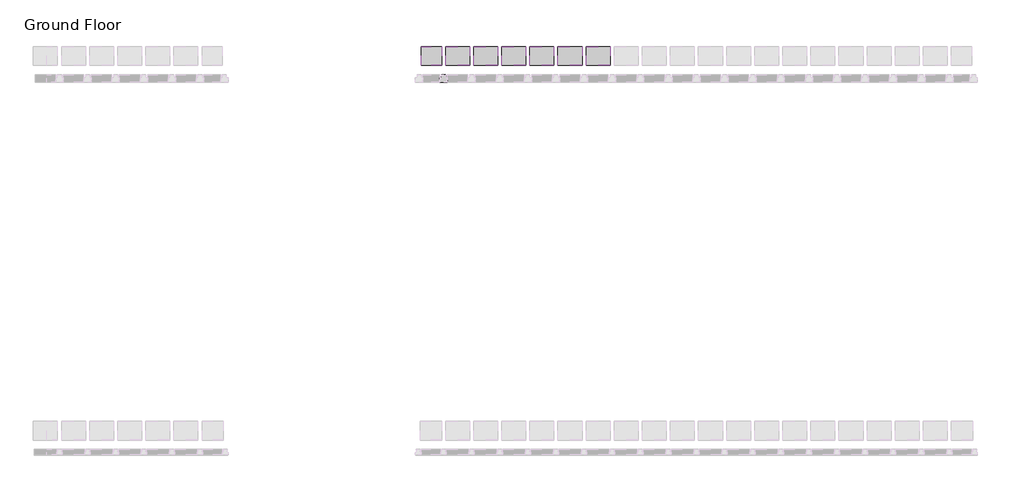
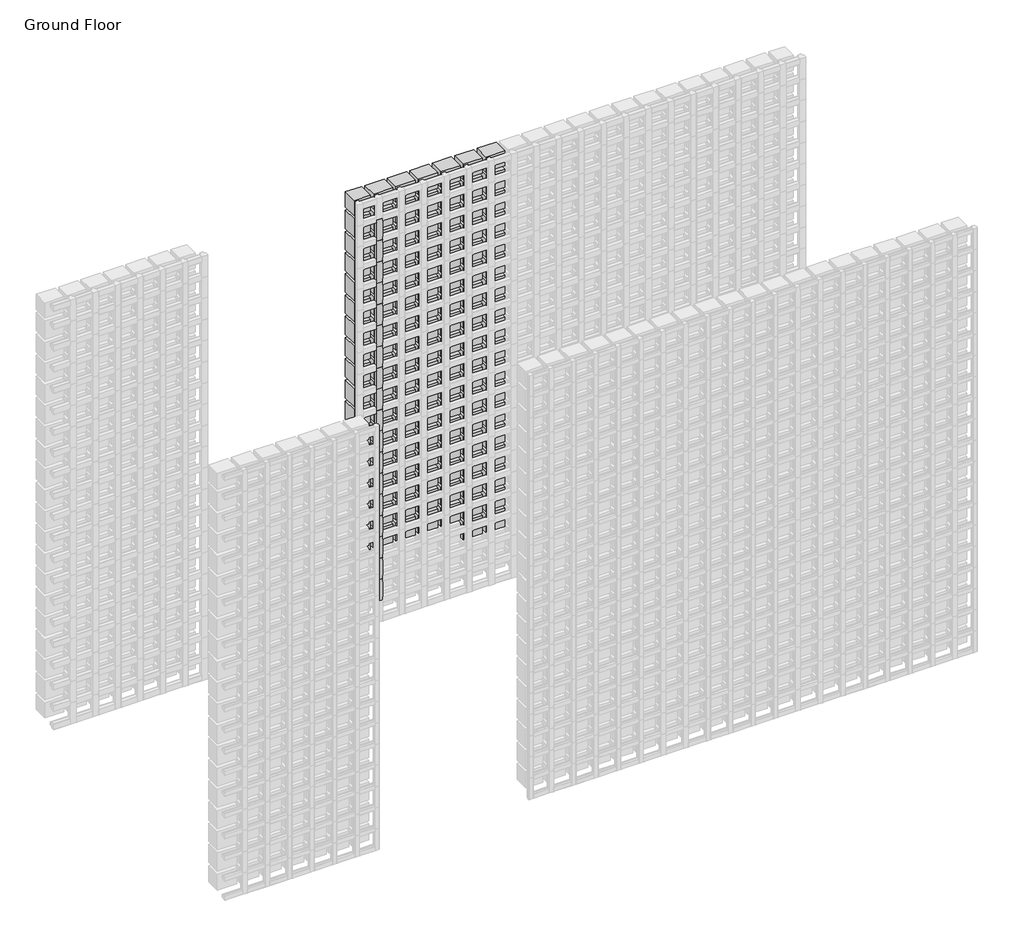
# One storey, part 118 of 350: 121 plates, 18 members.
"""IFC4 building model written with IfcOpenShell, lengths in millimetres."""

from ifc_helpers import new_model, si_unit, origin, place, context, project, spatial, transform, mapped, element, save
from components import rectangular_mullion_84e0df2e, empty_system_panel_empty_5a3607ba, empty_system_panel_empty_abd50de3, empty_system_panel_empty_5e80e148, empty_system_panel_empty_f8a2f29b

model = new_model("IFC4")

# Units and contexts
model_context = context("Model", 3, world=origin())
ifc_project = project(units=[si_unit("LENGTHUNIT", "METRE", prefix="MILLI")], contexts=[model_context])

# Site, building, storey
site = spatial("IfcSite", under=ifc_project)
building = spatial("IfcBuilding", under=site)
storey = spatial("IfcBuildingStorey", under=building, Name="Ground Floor", Elevation=0.0)

# Members
placement = place(None, origin())
rectangular_mullion_shape = rectangular_mullion_84e0df2e(model_context)
element("IfcMember", 1, ObjectType="Rectangular Mullion : Batten_Timber_Modinex_Austratus_Grid_Fin_40x40_Blackbutt", at=placement, inside=storey, context=model_context, shape_type="MappedRepresentation", body=[
    mapped(rectangular_mullion_shape, transform((6066.4361642, 44968.2978302, 150.0), x_axis=(1.0, 0.0, 0.0), y_axis=(0.0, -1.0, 0.0), z_axis=(0.0, 0.0, -1.0))),
])
element("IfcMember", 2, ObjectType="Rectangular Mullion : Batten_Timber_Modinex_Austratus_Grid_Fin_40x40_Blackbutt", at=placement, inside=storey, context=model_context, shape_type="MappedRepresentation", body=[
    mapped(rectangular_mullion_shape, transform((6066.4361642, 44968.2978302, 300.0), x_axis=(1.0, 0.0, 0.0), y_axis=(0.0, -1.0, 0.0), z_axis=(0.0, 0.0, -1.0))),
])
element("IfcMember", 3, ObjectType="Rectangular Mullion : Batten_Timber_Modinex_Austratus_Grid_Fin_40x40_Blackbutt", at=placement, inside=storey, context=model_context, shape_type="MappedRepresentation", body=[
    mapped(rectangular_mullion_shape, transform((6066.4361642, 44968.2978302, 450.0), x_axis=(1.0, 0.0, 0.0), y_axis=(0.0, -1.0, 0.0), z_axis=(0.0, 0.0, -1.0))),
])
element("IfcMember", 4, ObjectType="Rectangular Mullion : Batten_Timber_Modinex_Austratus_Grid_Fin_40x40_Blackbutt", at=placement, inside=storey, context=model_context, shape_type="MappedRepresentation", body=[
    mapped(rectangular_mullion_shape, transform((6066.4361642, 44968.2978302, 600.0), x_axis=(1.0, 0.0, 0.0), y_axis=(0.0, -1.0, 0.0), z_axis=(0.0, 0.0, -1.0))),
])
element("IfcMember", 5, ObjectType="Rectangular Mullion : Batten_Timber_Modinex_Austratus_Grid_Fin_40x40_Blackbutt", at=placement, inside=storey, context=model_context, shape_type="MappedRepresentation", body=[
    mapped(rectangular_mullion_shape, transform((6066.4361642, 44968.2978302, 750.0), x_axis=(1.0, 0.0, 0.0), y_axis=(0.0, -1.0, 0.0), z_axis=(0.0, 0.0, -1.0))),
])
element("IfcMember", 6, ObjectType="Rectangular Mullion : Batten_Timber_Modinex_Austratus_Grid_Fin_40x40_Blackbutt", at=placement, inside=storey, context=model_context, shape_type="MappedRepresentation", body=[
    mapped(rectangular_mullion_shape, transform((6066.4361642, 44968.2978302, 900.0), x_axis=(1.0, 0.0, 0.0), y_axis=(0.0, -1.0, 0.0), z_axis=(0.0, 0.0, -1.0))),
])
element("IfcMember", 7, ObjectType="Rectangular Mullion : Batten_Timber_Modinex_Austratus_Grid_Fin_40x40_Blackbutt", at=placement, inside=storey, context=model_context, shape_type="MappedRepresentation", body=[
    mapped(rectangular_mullion_shape, transform((6066.4361642, 44968.2978302, 1050.0), x_axis=(1.0, 0.0, 0.0), y_axis=(0.0, -1.0, 0.0), z_axis=(0.0, 0.0, -1.0))),
])
element("IfcMember", 8, ObjectType="Rectangular Mullion : Batten_Timber_Modinex_Austratus_Grid_Fin_40x40_Blackbutt", at=placement, inside=storey, context=model_context, shape_type="MappedRepresentation", body=[
    mapped(rectangular_mullion_shape, transform((6066.4361642, 44968.2978302, 1200.0), x_axis=(1.0, 0.0, 0.0), y_axis=(0.0, -1.0, 0.0), z_axis=(0.0, 0.0, -1.0))),
])
element("IfcMember", 9, ObjectType="Rectangular Mullion : Batten_Timber_Modinex_Austratus_Grid_Fin_40x40_Blackbutt", at=placement, inside=storey, context=model_context, shape_type="MappedRepresentation", body=[
    mapped(rectangular_mullion_shape, transform((6066.4361642, 44968.2978302, 1350.0), x_axis=(1.0, 0.0, 0.0), y_axis=(0.0, -1.0, 0.0), z_axis=(0.0, 0.0, -1.0))),
])
element("IfcMember", 10, ObjectType="Rectangular Mullion : Batten_Timber_Modinex_Austratus_Grid_Fin_40x40_Blackbutt", at=placement, inside=storey, context=model_context, shape_type="MappedRepresentation", body=[
    mapped(rectangular_mullion_shape, transform((6066.4361642, 44968.2978302, 1500.0), x_axis=(1.0, 0.0, 0.0), y_axis=(0.0, -1.0, 0.0), z_axis=(0.0, 0.0, -1.0))),
])
element("IfcMember", 11, ObjectType="Rectangular Mullion : Batten_Timber_Modinex_Austratus_Grid_Fin_40x40_Blackbutt", at=placement, inside=storey, context=model_context, shape_type="MappedRepresentation", body=[
    mapped(rectangular_mullion_shape, transform((6066.4361642, 44968.2978302, 1650.0), x_axis=(1.0, 0.0, 0.0), y_axis=(0.0, -1.0, 0.0), z_axis=(0.0, 0.0, -1.0))),
])
element("IfcMember", 12, ObjectType="Rectangular Mullion : Batten_Timber_Modinex_Austratus_Grid_Fin_40x40_Blackbutt", at=placement, inside=storey, context=model_context, shape_type="MappedRepresentation", body=[
    mapped(rectangular_mullion_shape, transform((6066.4361642, 44968.2978302, 1800.0), x_axis=(1.0, 0.0, 0.0), y_axis=(0.0, -1.0, 0.0), z_axis=(0.0, 0.0, -1.0))),
])
element("IfcMember", 13, ObjectType="Rectangular Mullion : Batten_Timber_Modinex_Austratus_Grid_Fin_40x40_Blackbutt", at=placement, inside=storey, context=model_context, shape_type="MappedRepresentation", body=[
    mapped(rectangular_mullion_shape, transform((6066.4361642, 44968.2978302, 1950.0), x_axis=(1.0, 0.0, 0.0), y_axis=(0.0, -1.0, 0.0), z_axis=(0.0, 0.0, -1.0))),
])
element("IfcMember", 14, ObjectType="Rectangular Mullion : Batten_Timber_Modinex_Austratus_Grid_Fin_40x40_Blackbutt", at=placement, inside=storey, context=model_context, shape_type="MappedRepresentation", body=[
    mapped(rectangular_mullion_shape, transform((6066.4361642, 44968.2978302, 2100.0), x_axis=(1.0, 0.0, 0.0), y_axis=(0.0, -1.0, 0.0), z_axis=(0.0, 0.0, -1.0))),
])
element("IfcMember", 15, ObjectType="Rectangular Mullion : Batten_Timber_Modinex_Austratus_Grid_Fin_40x40_Blackbutt", at=placement, inside=storey, context=model_context, shape_type="MappedRepresentation", body=[
    mapped(rectangular_mullion_shape, transform((6066.4361642, 44968.2978302, 2250.0), x_axis=(1.0, 0.0, 0.0), y_axis=(0.0, -1.0, 0.0), z_axis=(0.0, 0.0, -1.0))),
])
element("IfcMember", 16, ObjectType="Rectangular Mullion : Batten_Timber_Modinex_Austratus_Grid_Fin_40x40_Blackbutt", at=placement, inside=storey, context=model_context, shape_type="MappedRepresentation", body=[
    mapped(rectangular_mullion_shape, transform((6066.4361642, 44968.2978302, 2400.0), x_axis=(1.0, 0.0, 0.0), y_axis=(0.0, -1.0, 0.0), z_axis=(0.0, 0.0, -1.0))),
])
element("IfcMember", 17, ObjectType="Rectangular Mullion : Batten_Timber_Modinex_Austratus_Grid_Fin_40x40_Blackbutt", at=placement, inside=storey, context=model_context, shape_type="MappedRepresentation", body=[
    mapped(rectangular_mullion_shape, transform((6066.4361642, 44968.2978302, 2550.0), x_axis=(1.0, 0.0, 0.0), y_axis=(0.0, -1.0, 0.0), z_axis=(0.0, 0.0, -1.0))),
])
element("IfcMember", 18, ObjectType="Rectangular Mullion : Batten_Timber_Modinex_Austratus_Grid_Fin_40x40_Blackbutt", at=placement, inside=storey, context=model_context, shape_type="MappedRepresentation", body=[
    mapped(rectangular_mullion_shape, transform((6066.4361642, 44968.2978302, 2700.0), x_axis=(1.0, 0.0, 0.0), y_axis=(0.0, -1.0, 0.0), z_axis=(0.0, 0.0, -1.0))),
])

# Plates
empty_system_panel_empty_shape = empty_system_panel_empty_5a3607ba(model_context)
element("IfcPlate", 19, ObjectType="Empty System Panel : Empty", at=placement, inside=storey, context=model_context, shape_type="MappedRepresentation", body=[
    mapped(empty_system_panel_empty_shape, transform((6741.4361642, 44968.2978302, 310.812195), x_axis=(1.0, 0.0, 0.0), y_axis=(0.0, 1.0, 0.0), z_axis=(0.0, 0.0, 1.0))),
])
element("IfcPlate", 20, ObjectType="Empty System Panel : Empty", at=placement, inside=storey, context=model_context, shape_type="MappedRepresentation", body=[
    mapped(empty_system_panel_empty_shape, transform((6891.4361642, 44968.2978302, 310.812195), x_axis=(1.0, 0.0, 0.0), y_axis=(0.0, 1.0, 0.0), z_axis=(0.0, 0.0, 1.0))),
])
element("IfcPlate", 21, ObjectType="Empty System Panel : Empty", at=placement, inside=storey, context=model_context, shape_type="MappedRepresentation", body=[
    mapped(empty_system_panel_empty_shape, transform((6141.4361642, 44968.2978302, 460.812195), x_axis=(1.0, 0.0, 0.0), y_axis=(0.0, 1.0, 0.0), z_axis=(0.0, 0.0, 1.0))),
])
element("IfcPlate", 22, ObjectType="Empty System Panel : Empty", at=placement, inside=storey, context=model_context, shape_type="MappedRepresentation", body=[
    mapped(empty_system_panel_empty_shape, transform((6291.4361642, 44968.2978302, 460.812195), x_axis=(1.0, 0.0, 0.0), y_axis=(0.0, 1.0, 0.0), z_axis=(0.0, 0.0, 1.0))),
])
element("IfcPlate", 23, ObjectType="Empty System Panel : Empty", at=placement, inside=storey, context=model_context, shape_type="MappedRepresentation", body=[
    mapped(empty_system_panel_empty_shape, transform((6441.4361642, 44968.2978302, 460.812195), x_axis=(1.0, 0.0, 0.0), y_axis=(0.0, 1.0, 0.0), z_axis=(0.0, 0.0, 1.0))),
])
element("IfcPlate", 24, ObjectType="Empty System Panel : Empty", at=placement, inside=storey, context=model_context, shape_type="MappedRepresentation", body=[
    mapped(empty_system_panel_empty_shape, transform((6591.4361642, 44968.2978302, 460.812195), x_axis=(1.0, 0.0, 0.0), y_axis=(0.0, 1.0, 0.0), z_axis=(0.0, 0.0, 1.0))),
])
element("IfcPlate", 25, ObjectType="Empty System Panel : Empty", at=placement, inside=storey, context=model_context, shape_type="MappedRepresentation", body=[
    mapped(empty_system_panel_empty_shape, transform((6741.4361642, 44968.2978302, 460.812195), x_axis=(1.0, 0.0, 0.0), y_axis=(0.0, 1.0, 0.0), z_axis=(0.0, 0.0, 1.0))),
])
element("IfcPlate", 26, ObjectType="Empty System Panel : Empty", at=placement, inside=storey, context=model_context, shape_type="MappedRepresentation", body=[
    mapped(empty_system_panel_empty_shape, transform((6891.4361642, 44968.2978302, 460.812195), x_axis=(1.0, 0.0, 0.0), y_axis=(0.0, 1.0, 0.0), z_axis=(0.0, 0.0, 1.0))),
])
element("IfcPlate", 27, ObjectType="Empty System Panel : Empty", at=placement, inside=storey, context=model_context, shape_type="MappedRepresentation", body=[
    mapped(empty_system_panel_empty_shape, transform((6141.4361642, 44968.2978302, 610.812195), x_axis=(1.0, 0.0, 0.0), y_axis=(0.0, 1.0, 0.0), z_axis=(0.0, 0.0, 1.0))),
])
element("IfcPlate", 28, ObjectType="Empty System Panel : Empty", at=placement, inside=storey, context=model_context, shape_type="MappedRepresentation", body=[
    mapped(empty_system_panel_empty_shape, transform((6291.4361642, 44968.2978302, 610.812195), x_axis=(1.0, 0.0, 0.0), y_axis=(0.0, 1.0, 0.0), z_axis=(0.0, 0.0, 1.0))),
])
element("IfcPlate", 29, ObjectType="Empty System Panel : Empty", at=placement, inside=storey, context=model_context, shape_type="MappedRepresentation", body=[
    mapped(empty_system_panel_empty_shape, transform((6441.4361642, 44968.2978302, 610.812195), x_axis=(1.0, 0.0, 0.0), y_axis=(0.0, 1.0, 0.0), z_axis=(0.0, 0.0, 1.0))),
])
element("IfcPlate", 30, ObjectType="Empty System Panel : Empty", at=placement, inside=storey, context=model_context, shape_type="MappedRepresentation", body=[
    mapped(empty_system_panel_empty_shape, transform((6591.4361642, 44968.2978302, 610.812195), x_axis=(1.0, 0.0, 0.0), y_axis=(0.0, 1.0, 0.0), z_axis=(0.0, 0.0, 1.0))),
])
element("IfcPlate", 31, ObjectType="Empty System Panel : Empty", at=placement, inside=storey, context=model_context, shape_type="MappedRepresentation", body=[
    mapped(empty_system_panel_empty_shape, transform((6741.4361642, 44968.2978302, 610.812195), x_axis=(1.0, 0.0, 0.0), y_axis=(0.0, 1.0, 0.0), z_axis=(0.0, 0.0, 1.0))),
])
element("IfcPlate", 32, ObjectType="Empty System Panel : Empty", at=placement, inside=storey, context=model_context, shape_type="MappedRepresentation", body=[
    mapped(empty_system_panel_empty_shape, transform((6891.4361642, 44968.2978302, 610.812195), x_axis=(1.0, 0.0, 0.0), y_axis=(0.0, 1.0, 0.0), z_axis=(0.0, 0.0, 1.0))),
])
element("IfcPlate", 33, ObjectType="Empty System Panel : Empty", at=placement, inside=storey, context=model_context, shape_type="MappedRepresentation", body=[
    mapped(empty_system_panel_empty_shape, transform((6141.4361642, 44968.2978302, 760.812195), x_axis=(1.0, 0.0, 0.0), y_axis=(0.0, 1.0, 0.0), z_axis=(0.0, 0.0, 1.0))),
])
element("IfcPlate", 34, ObjectType="Empty System Panel : Empty", at=placement, inside=storey, context=model_context, shape_type="MappedRepresentation", body=[
    mapped(empty_system_panel_empty_shape, transform((6291.4361642, 44968.2978302, 760.812195), x_axis=(1.0, 0.0, 0.0), y_axis=(0.0, 1.0, 0.0), z_axis=(0.0, 0.0, 1.0))),
])
element("IfcPlate", 35, ObjectType="Empty System Panel : Empty", at=placement, inside=storey, context=model_context, shape_type="MappedRepresentation", body=[
    mapped(empty_system_panel_empty_shape, transform((6441.4361642, 44968.2978302, 760.812195), x_axis=(1.0, 0.0, 0.0), y_axis=(0.0, 1.0, 0.0), z_axis=(0.0, 0.0, 1.0))),
])
element("IfcPlate", 36, ObjectType="Empty System Panel : Empty", at=placement, inside=storey, context=model_context, shape_type="MappedRepresentation", body=[
    mapped(empty_system_panel_empty_shape, transform((6591.4361642, 44968.2978302, 760.812195), x_axis=(1.0, 0.0, 0.0), y_axis=(0.0, 1.0, 0.0), z_axis=(0.0, 0.0, 1.0))),
])
element("IfcPlate", 37, ObjectType="Empty System Panel : Empty", at=placement, inside=storey, context=model_context, shape_type="MappedRepresentation", body=[
    mapped(empty_system_panel_empty_shape, transform((6741.4361642, 44968.2978302, 760.812195), x_axis=(1.0, 0.0, 0.0), y_axis=(0.0, 1.0, 0.0), z_axis=(0.0, 0.0, 1.0))),
])
element("IfcPlate", 38, ObjectType="Empty System Panel : Empty", at=placement, inside=storey, context=model_context, shape_type="MappedRepresentation", body=[
    mapped(empty_system_panel_empty_shape, transform((6891.4361642, 44968.2978302, 760.812195), x_axis=(1.0, 0.0, 0.0), y_axis=(0.0, 1.0, 0.0), z_axis=(0.0, 0.0, 1.0))),
])
element("IfcPlate", 39, ObjectType="Empty System Panel : Empty", at=placement, inside=storey, context=model_context, shape_type="MappedRepresentation", body=[
    mapped(empty_system_panel_empty_shape, transform((6141.4361642, 44968.2978302, 910.812195), x_axis=(1.0, 0.0, 0.0), y_axis=(0.0, 1.0, 0.0), z_axis=(0.0, 0.0, 1.0))),
])
element("IfcPlate", 40, ObjectType="Empty System Panel : Empty", at=placement, inside=storey, context=model_context, shape_type="MappedRepresentation", body=[
    mapped(empty_system_panel_empty_shape, transform((6291.4361642, 44968.2978302, 910.812195), x_axis=(1.0, 0.0, 0.0), y_axis=(0.0, 1.0, 0.0), z_axis=(0.0, 0.0, 1.0))),
])
element("IfcPlate", 41, ObjectType="Empty System Panel : Empty", at=placement, inside=storey, context=model_context, shape_type="MappedRepresentation", body=[
    mapped(empty_system_panel_empty_shape, transform((6441.4361642, 44968.2978302, 910.812195), x_axis=(1.0, 0.0, 0.0), y_axis=(0.0, 1.0, 0.0), z_axis=(0.0, 0.0, 1.0))),
])
element("IfcPlate", 42, ObjectType="Empty System Panel : Empty", at=placement, inside=storey, context=model_context, shape_type="MappedRepresentation", body=[
    mapped(empty_system_panel_empty_shape, transform((6591.4361642, 44968.2978302, 910.812195), x_axis=(1.0, 0.0, 0.0), y_axis=(0.0, 1.0, 0.0), z_axis=(0.0, 0.0, 1.0))),
])
element("IfcPlate", 43, ObjectType="Empty System Panel : Empty", at=placement, inside=storey, context=model_context, shape_type="MappedRepresentation", body=[
    mapped(empty_system_panel_empty_shape, transform((6741.4361642, 44968.2978302, 910.812195), x_axis=(1.0, 0.0, 0.0), y_axis=(0.0, 1.0, 0.0), z_axis=(0.0, 0.0, 1.0))),
])
element("IfcPlate", 44, ObjectType="Empty System Panel : Empty", at=placement, inside=storey, context=model_context, shape_type="MappedRepresentation", body=[
    mapped(empty_system_panel_empty_shape, transform((6891.4361642, 44968.2978302, 910.812195), x_axis=(1.0, 0.0, 0.0), y_axis=(0.0, 1.0, 0.0), z_axis=(0.0, 0.0, 1.0))),
])
element("IfcPlate", 45, ObjectType="Empty System Panel : Empty", at=placement, inside=storey, context=model_context, shape_type="MappedRepresentation", body=[
    mapped(empty_system_panel_empty_shape, transform((6141.4361642, 44968.2978302, 1060.812195), x_axis=(1.0, 0.0, 0.0), y_axis=(0.0, 1.0, 0.0), z_axis=(0.0, 0.0, 1.0))),
])
element("IfcPlate", 46, ObjectType="Empty System Panel : Empty", at=placement, inside=storey, context=model_context, shape_type="MappedRepresentation", body=[
    mapped(empty_system_panel_empty_shape, transform((6291.4361642, 44968.2978302, 1060.812195), x_axis=(1.0, 0.0, 0.0), y_axis=(0.0, 1.0, 0.0), z_axis=(0.0, 0.0, 1.0))),
])
element("IfcPlate", 47, ObjectType="Empty System Panel : Empty", at=placement, inside=storey, context=model_context, shape_type="MappedRepresentation", body=[
    mapped(empty_system_panel_empty_shape, transform((6441.4361642, 44968.2978302, 1060.812195), x_axis=(1.0, 0.0, 0.0), y_axis=(0.0, 1.0, 0.0), z_axis=(0.0, 0.0, 1.0))),
])
element("IfcPlate", 48, ObjectType="Empty System Panel : Empty", at=placement, inside=storey, context=model_context, shape_type="MappedRepresentation", body=[
    mapped(empty_system_panel_empty_shape, transform((6591.4361642, 44968.2978302, 1060.812195), x_axis=(1.0, 0.0, 0.0), y_axis=(0.0, 1.0, 0.0), z_axis=(0.0, 0.0, 1.0))),
])
element("IfcPlate", 49, ObjectType="Empty System Panel : Empty", at=placement, inside=storey, context=model_context, shape_type="MappedRepresentation", body=[
    mapped(empty_system_panel_empty_shape, transform((6741.4361642, 44968.2978302, 1060.812195), x_axis=(1.0, 0.0, 0.0), y_axis=(0.0, 1.0, 0.0), z_axis=(0.0, 0.0, 1.0))),
])
element("IfcPlate", 50, ObjectType="Empty System Panel : Empty", at=placement, inside=storey, context=model_context, shape_type="MappedRepresentation", body=[
    mapped(empty_system_panel_empty_shape, transform((6891.4361642, 44968.2978302, 1060.812195), x_axis=(1.0, 0.0, 0.0), y_axis=(0.0, 1.0, 0.0), z_axis=(0.0, 0.0, 1.0))),
])
element("IfcPlate", 51, ObjectType="Empty System Panel : Empty", at=placement, inside=storey, context=model_context, shape_type="MappedRepresentation", body=[
    mapped(empty_system_panel_empty_shape, transform((6141.4361642, 44968.2978302, 1210.812195), x_axis=(1.0, 0.0, 0.0), y_axis=(0.0, 1.0, 0.0), z_axis=(0.0, 0.0, 1.0))),
])
element("IfcPlate", 52, ObjectType="Empty System Panel : Empty", at=placement, inside=storey, context=model_context, shape_type="MappedRepresentation", body=[
    mapped(empty_system_panel_empty_shape, transform((6291.4361642, 44968.2978302, 1210.812195), x_axis=(1.0, 0.0, 0.0), y_axis=(0.0, 1.0, 0.0), z_axis=(0.0, 0.0, 1.0))),
])
element("IfcPlate", 53, ObjectType="Empty System Panel : Empty", at=placement, inside=storey, context=model_context, shape_type="MappedRepresentation", body=[
    mapped(empty_system_panel_empty_shape, transform((6441.4361642, 44968.2978302, 1210.812195), x_axis=(1.0, 0.0, 0.0), y_axis=(0.0, 1.0, 0.0), z_axis=(0.0, 0.0, 1.0))),
])
element("IfcPlate", 54, ObjectType="Empty System Panel : Empty", at=placement, inside=storey, context=model_context, shape_type="MappedRepresentation", body=[
    mapped(empty_system_panel_empty_shape, transform((6591.4361642, 44968.2978302, 1210.812195), x_axis=(1.0, 0.0, 0.0), y_axis=(0.0, 1.0, 0.0), z_axis=(0.0, 0.0, 1.0))),
])
element("IfcPlate", 55, ObjectType="Empty System Panel : Empty", at=placement, inside=storey, context=model_context, shape_type="MappedRepresentation", body=[
    mapped(empty_system_panel_empty_shape, transform((6741.4361642, 44968.2978302, 1210.812195), x_axis=(1.0, 0.0, 0.0), y_axis=(0.0, 1.0, 0.0), z_axis=(0.0, 0.0, 1.0))),
])
element("IfcPlate", 56, ObjectType="Empty System Panel : Empty", at=placement, inside=storey, context=model_context, shape_type="MappedRepresentation", body=[
    mapped(empty_system_panel_empty_shape, transform((6891.4361642, 44968.2978302, 1210.812195), x_axis=(1.0, 0.0, 0.0), y_axis=(0.0, 1.0, 0.0), z_axis=(0.0, 0.0, 1.0))),
])
element("IfcPlate", 57, ObjectType="Empty System Panel : Empty", at=placement, inside=storey, context=model_context, shape_type="MappedRepresentation", body=[
    mapped(empty_system_panel_empty_shape, transform((6141.4361642, 44968.2978302, 1360.812195), x_axis=(1.0, 0.0, 0.0), y_axis=(0.0, 1.0, 0.0), z_axis=(0.0, 0.0, 1.0))),
])
element("IfcPlate", 58, ObjectType="Empty System Panel : Empty", at=placement, inside=storey, context=model_context, shape_type="MappedRepresentation", body=[
    mapped(empty_system_panel_empty_shape, transform((6291.4361642, 44968.2978302, 1360.812195), x_axis=(1.0, 0.0, 0.0), y_axis=(0.0, 1.0, 0.0), z_axis=(0.0, 0.0, 1.0))),
])
element("IfcPlate", 59, ObjectType="Empty System Panel : Empty", at=placement, inside=storey, context=model_context, shape_type="MappedRepresentation", body=[
    mapped(empty_system_panel_empty_shape, transform((6441.4361642, 44968.2978302, 1360.812195), x_axis=(1.0, 0.0, 0.0), y_axis=(0.0, 1.0, 0.0), z_axis=(0.0, 0.0, 1.0))),
])
element("IfcPlate", 60, ObjectType="Empty System Panel : Empty", at=placement, inside=storey, context=model_context, shape_type="MappedRepresentation", body=[
    mapped(empty_system_panel_empty_shape, transform((6591.4361642, 44968.2978302, 1360.812195), x_axis=(1.0, 0.0, 0.0), y_axis=(0.0, 1.0, 0.0), z_axis=(0.0, 0.0, 1.0))),
])
element("IfcPlate", 61, ObjectType="Empty System Panel : Empty", at=placement, inside=storey, context=model_context, shape_type="MappedRepresentation", body=[
    mapped(empty_system_panel_empty_shape, transform((6741.4361642, 44968.2978302, 1360.812195), x_axis=(1.0, 0.0, 0.0), y_axis=(0.0, 1.0, 0.0), z_axis=(0.0, 0.0, 1.0))),
])
element("IfcPlate", 62, ObjectType="Empty System Panel : Empty", at=placement, inside=storey, context=model_context, shape_type="MappedRepresentation", body=[
    mapped(empty_system_panel_empty_shape, transform((6891.4361642, 44968.2978302, 1360.812195), x_axis=(1.0, 0.0, 0.0), y_axis=(0.0, 1.0, 0.0), z_axis=(0.0, 0.0, 1.0))),
])
element("IfcPlate", 63, ObjectType="Empty System Panel : Empty", at=placement, inside=storey, context=model_context, shape_type="MappedRepresentation", body=[
    mapped(empty_system_panel_empty_shape, transform((6141.4361642, 44968.2978302, 1510.812195), x_axis=(1.0, 0.0, 0.0), y_axis=(0.0, 1.0, 0.0), z_axis=(0.0, 0.0, 1.0))),
])
element("IfcPlate", 64, ObjectType="Empty System Panel : Empty", at=placement, inside=storey, context=model_context, shape_type="MappedRepresentation", body=[
    mapped(empty_system_panel_empty_shape, transform((6291.4361642, 44968.2978302, 1510.812195), x_axis=(1.0, 0.0, 0.0), y_axis=(0.0, 1.0, 0.0), z_axis=(0.0, 0.0, 1.0))),
])
element("IfcPlate", 65, ObjectType="Empty System Panel : Empty", at=placement, inside=storey, context=model_context, shape_type="MappedRepresentation", body=[
    mapped(empty_system_panel_empty_shape, transform((6441.4361642, 44968.2978302, 1510.812195), x_axis=(1.0, 0.0, 0.0), y_axis=(0.0, 1.0, 0.0), z_axis=(0.0, 0.0, 1.0))),
])
element("IfcPlate", 66, ObjectType="Empty System Panel : Empty", at=placement, inside=storey, context=model_context, shape_type="MappedRepresentation", body=[
    mapped(empty_system_panel_empty_shape, transform((6591.4361642, 44968.2978302, 1510.812195), x_axis=(1.0, 0.0, 0.0), y_axis=(0.0, 1.0, 0.0), z_axis=(0.0, 0.0, 1.0))),
])
element("IfcPlate", 67, ObjectType="Empty System Panel : Empty", at=placement, inside=storey, context=model_context, shape_type="MappedRepresentation", body=[
    mapped(empty_system_panel_empty_shape, transform((6741.4361642, 44968.2978302, 1510.812195), x_axis=(1.0, 0.0, 0.0), y_axis=(0.0, 1.0, 0.0), z_axis=(0.0, 0.0, 1.0))),
])
element("IfcPlate", 68, ObjectType="Empty System Panel : Empty", at=placement, inside=storey, context=model_context, shape_type="MappedRepresentation", body=[
    mapped(empty_system_panel_empty_shape, transform((6891.4361642, 44968.2978302, 1510.812195), x_axis=(1.0, 0.0, 0.0), y_axis=(0.0, 1.0, 0.0), z_axis=(0.0, 0.0, 1.0))),
])
element("IfcPlate", 69, ObjectType="Empty System Panel : Empty", at=placement, inside=storey, context=model_context, shape_type="MappedRepresentation", body=[
    mapped(empty_system_panel_empty_shape, transform((6141.4361642, 44968.2978302, 1660.812195), x_axis=(1.0, 0.0, 0.0), y_axis=(0.0, 1.0, 0.0), z_axis=(0.0, 0.0, 1.0))),
])
element("IfcPlate", 70, ObjectType="Empty System Panel : Empty", at=placement, inside=storey, context=model_context, shape_type="MappedRepresentation", body=[
    mapped(empty_system_panel_empty_shape, transform((6291.4361642, 44968.2978302, 1660.812195), x_axis=(1.0, 0.0, 0.0), y_axis=(0.0, 1.0, 0.0), z_axis=(0.0, 0.0, 1.0))),
])
element("IfcPlate", 71, ObjectType="Empty System Panel : Empty", at=placement, inside=storey, context=model_context, shape_type="MappedRepresentation", body=[
    mapped(empty_system_panel_empty_shape, transform((6441.4361642, 44968.2978302, 1660.812195), x_axis=(1.0, 0.0, 0.0), y_axis=(0.0, 1.0, 0.0), z_axis=(0.0, 0.0, 1.0))),
])
element("IfcPlate", 72, ObjectType="Empty System Panel : Empty", at=placement, inside=storey, context=model_context, shape_type="MappedRepresentation", body=[
    mapped(empty_system_panel_empty_shape, transform((6591.4361642, 44968.2978302, 1660.812195), x_axis=(1.0, 0.0, 0.0), y_axis=(0.0, 1.0, 0.0), z_axis=(0.0, 0.0, 1.0))),
])
element("IfcPlate", 73, ObjectType="Empty System Panel : Empty", at=placement, inside=storey, context=model_context, shape_type="MappedRepresentation", body=[
    mapped(empty_system_panel_empty_shape, transform((6741.4361642, 44968.2978302, 1660.812195), x_axis=(1.0, 0.0, 0.0), y_axis=(0.0, 1.0, 0.0), z_axis=(0.0, 0.0, 1.0))),
])
element("IfcPlate", 74, ObjectType="Empty System Panel : Empty", at=placement, inside=storey, context=model_context, shape_type="MappedRepresentation", body=[
    mapped(empty_system_panel_empty_shape, transform((6891.4361642, 44968.2978302, 1660.812195), x_axis=(1.0, 0.0, 0.0), y_axis=(0.0, 1.0, 0.0), z_axis=(0.0, 0.0, 1.0))),
])
element("IfcPlate", 75, ObjectType="Empty System Panel : Empty", at=placement, inside=storey, context=model_context, shape_type="MappedRepresentation", body=[
    mapped(empty_system_panel_empty_shape, transform((6141.4361642, 44968.2978302, 1810.812195), x_axis=(1.0, 0.0, 0.0), y_axis=(0.0, 1.0, 0.0), z_axis=(0.0, 0.0, 1.0))),
])
element("IfcPlate", 76, ObjectType="Empty System Panel : Empty", at=placement, inside=storey, context=model_context, shape_type="MappedRepresentation", body=[
    mapped(empty_system_panel_empty_shape, transform((6291.4361642, 44968.2978302, 1810.812195), x_axis=(1.0, 0.0, 0.0), y_axis=(0.0, 1.0, 0.0), z_axis=(0.0, 0.0, 1.0))),
])
element("IfcPlate", 77, ObjectType="Empty System Panel : Empty", at=placement, inside=storey, context=model_context, shape_type="MappedRepresentation", body=[
    mapped(empty_system_panel_empty_shape, transform((6441.4361642, 44968.2978302, 1810.812195), x_axis=(1.0, 0.0, 0.0), y_axis=(0.0, 1.0, 0.0), z_axis=(0.0, 0.0, 1.0))),
])
element("IfcPlate", 78, ObjectType="Empty System Panel : Empty", at=placement, inside=storey, context=model_context, shape_type="MappedRepresentation", body=[
    mapped(empty_system_panel_empty_shape, transform((6591.4361642, 44968.2978302, 1810.812195), x_axis=(1.0, 0.0, 0.0), y_axis=(0.0, 1.0, 0.0), z_axis=(0.0, 0.0, 1.0))),
])
element("IfcPlate", 79, ObjectType="Empty System Panel : Empty", at=placement, inside=storey, context=model_context, shape_type="MappedRepresentation", body=[
    mapped(empty_system_panel_empty_shape, transform((6741.4361642, 44968.2978302, 1810.812195), x_axis=(1.0, 0.0, 0.0), y_axis=(0.0, 1.0, 0.0), z_axis=(0.0, 0.0, 1.0))),
])
element("IfcPlate", 80, ObjectType="Empty System Panel : Empty", at=placement, inside=storey, context=model_context, shape_type="MappedRepresentation", body=[
    mapped(empty_system_panel_empty_shape, transform((6891.4361642, 44968.2978302, 1810.812195), x_axis=(1.0, 0.0, 0.0), y_axis=(0.0, 1.0, 0.0), z_axis=(0.0, 0.0, 1.0))),
])
element("IfcPlate", 81, ObjectType="Empty System Panel : Empty", at=placement, inside=storey, context=model_context, shape_type="MappedRepresentation", body=[
    mapped(empty_system_panel_empty_shape, transform((6141.4361642, 44968.2978302, 1960.812195), x_axis=(1.0, 0.0, 0.0), y_axis=(0.0, 1.0, 0.0), z_axis=(0.0, 0.0, 1.0))),
])
element("IfcPlate", 82, ObjectType="Empty System Panel : Empty", at=placement, inside=storey, context=model_context, shape_type="MappedRepresentation", body=[
    mapped(empty_system_panel_empty_shape, transform((6291.4361642, 44968.2978302, 1960.812195), x_axis=(1.0, 0.0, 0.0), y_axis=(0.0, 1.0, 0.0), z_axis=(0.0, 0.0, 1.0))),
])
element("IfcPlate", 83, ObjectType="Empty System Panel : Empty", at=placement, inside=storey, context=model_context, shape_type="MappedRepresentation", body=[
    mapped(empty_system_panel_empty_shape, transform((6441.4361642, 44968.2978302, 1960.812195), x_axis=(1.0, 0.0, 0.0), y_axis=(0.0, 1.0, 0.0), z_axis=(0.0, 0.0, 1.0))),
])
element("IfcPlate", 84, ObjectType="Empty System Panel : Empty", at=placement, inside=storey, context=model_context, shape_type="MappedRepresentation", body=[
    mapped(empty_system_panel_empty_shape, transform((6591.4361642, 44968.2978302, 1960.812195), x_axis=(1.0, 0.0, 0.0), y_axis=(0.0, 1.0, 0.0), z_axis=(0.0, 0.0, 1.0))),
])
element("IfcPlate", 85, ObjectType="Empty System Panel : Empty", at=placement, inside=storey, context=model_context, shape_type="MappedRepresentation", body=[
    mapped(empty_system_panel_empty_shape, transform((6741.4361642, 44968.2978302, 1960.812195), x_axis=(1.0, 0.0, 0.0), y_axis=(0.0, 1.0, 0.0), z_axis=(0.0, 0.0, 1.0))),
])
element("IfcPlate", 86, ObjectType="Empty System Panel : Empty", at=placement, inside=storey, context=model_context, shape_type="MappedRepresentation", body=[
    mapped(empty_system_panel_empty_shape, transform((6891.4361642, 44968.2978302, 1960.812195), x_axis=(1.0, 0.0, 0.0), y_axis=(0.0, 1.0, 0.0), z_axis=(0.0, 0.0, 1.0))),
])
element("IfcPlate", 87, ObjectType="Empty System Panel : Empty", at=placement, inside=storey, context=model_context, shape_type="MappedRepresentation", body=[
    mapped(empty_system_panel_empty_shape, transform((6141.4361642, 44968.2978302, 2110.812195), x_axis=(1.0, 0.0, 0.0), y_axis=(0.0, 1.0, 0.0), z_axis=(0.0, 0.0, 1.0))),
])
element("IfcPlate", 88, ObjectType="Empty System Panel : Empty", at=placement, inside=storey, context=model_context, shape_type="MappedRepresentation", body=[
    mapped(empty_system_panel_empty_shape, transform((6291.4361642, 44968.2978302, 2110.812195), x_axis=(1.0, 0.0, 0.0), y_axis=(0.0, 1.0, 0.0), z_axis=(0.0, 0.0, 1.0))),
])
element("IfcPlate", 89, ObjectType="Empty System Panel : Empty", at=placement, inside=storey, context=model_context, shape_type="MappedRepresentation", body=[
    mapped(empty_system_panel_empty_shape, transform((6441.4361642, 44968.2978302, 2110.812195), x_axis=(1.0, 0.0, 0.0), y_axis=(0.0, 1.0, 0.0), z_axis=(0.0, 0.0, 1.0))),
])
element("IfcPlate", 90, ObjectType="Empty System Panel : Empty", at=placement, inside=storey, context=model_context, shape_type="MappedRepresentation", body=[
    mapped(empty_system_panel_empty_shape, transform((6591.4361642, 44968.2978302, 2110.812195), x_axis=(1.0, 0.0, 0.0), y_axis=(0.0, 1.0, 0.0), z_axis=(0.0, 0.0, 1.0))),
])
element("IfcPlate", 91, ObjectType="Empty System Panel : Empty", at=placement, inside=storey, context=model_context, shape_type="MappedRepresentation", body=[
    mapped(empty_system_panel_empty_shape, transform((6741.4361642, 44968.2978302, 2110.812195), x_axis=(1.0, 0.0, 0.0), y_axis=(0.0, 1.0, 0.0), z_axis=(0.0, 0.0, 1.0))),
])
element("IfcPlate", 92, ObjectType="Empty System Panel : Empty", at=placement, inside=storey, context=model_context, shape_type="MappedRepresentation", body=[
    mapped(empty_system_panel_empty_shape, transform((6891.4361642, 44968.2978302, 2110.812195), x_axis=(1.0, 0.0, 0.0), y_axis=(0.0, 1.0, 0.0), z_axis=(0.0, 0.0, 1.0))),
])
element("IfcPlate", 93, ObjectType="Empty System Panel : Empty", at=placement, inside=storey, context=model_context, shape_type="MappedRepresentation", body=[
    mapped(empty_system_panel_empty_shape, transform((6141.4361642, 44968.2978302, 2260.812195), x_axis=(1.0, 0.0, 0.0), y_axis=(0.0, 1.0, 0.0), z_axis=(0.0, 0.0, 1.0))),
])
element("IfcPlate", 94, ObjectType="Empty System Panel : Empty", at=placement, inside=storey, context=model_context, shape_type="MappedRepresentation", body=[
    mapped(empty_system_panel_empty_shape, transform((6291.4361642, 44968.2978302, 2260.812195), x_axis=(1.0, 0.0, 0.0), y_axis=(0.0, 1.0, 0.0), z_axis=(0.0, 0.0, 1.0))),
])
element("IfcPlate", 95, ObjectType="Empty System Panel : Empty", at=placement, inside=storey, context=model_context, shape_type="MappedRepresentation", body=[
    mapped(empty_system_panel_empty_shape, transform((6441.4361642, 44968.2978302, 2260.812195), x_axis=(1.0, 0.0, 0.0), y_axis=(0.0, 1.0, 0.0), z_axis=(0.0, 0.0, 1.0))),
])
element("IfcPlate", 96, ObjectType="Empty System Panel : Empty", at=placement, inside=storey, context=model_context, shape_type="MappedRepresentation", body=[
    mapped(empty_system_panel_empty_shape, transform((6591.4361642, 44968.2978302, 2260.812195), x_axis=(1.0, 0.0, 0.0), y_axis=(0.0, 1.0, 0.0), z_axis=(0.0, 0.0, 1.0))),
])
element("IfcPlate", 97, ObjectType="Empty System Panel : Empty", at=placement, inside=storey, context=model_context, shape_type="MappedRepresentation", body=[
    mapped(empty_system_panel_empty_shape, transform((6741.4361642, 44968.2978302, 2260.812195), x_axis=(1.0, 0.0, 0.0), y_axis=(0.0, 1.0, 0.0), z_axis=(0.0, 0.0, 1.0))),
])
element("IfcPlate", 98, ObjectType="Empty System Panel : Empty", at=placement, inside=storey, context=model_context, shape_type="MappedRepresentation", body=[
    mapped(empty_system_panel_empty_shape, transform((6891.4361642, 44968.2978302, 2260.812195), x_axis=(1.0, 0.0, 0.0), y_axis=(0.0, 1.0, 0.0), z_axis=(0.0, 0.0, 1.0))),
])
element("IfcPlate", 99, ObjectType="Empty System Panel : Empty", at=placement, inside=storey, context=model_context, shape_type="MappedRepresentation", body=[
    mapped(empty_system_panel_empty_shape, transform((6141.4361642, 44968.2978302, 2410.812195), x_axis=(1.0, 0.0, 0.0), y_axis=(0.0, 1.0, 0.0), z_axis=(0.0, 0.0, 1.0))),
])
element("IfcPlate", 100, ObjectType="Empty System Panel : Empty", at=placement, inside=storey, context=model_context, shape_type="MappedRepresentation", body=[
    mapped(empty_system_panel_empty_shape, transform((6291.4361642, 44968.2978302, 2410.812195), x_axis=(1.0, 0.0, 0.0), y_axis=(0.0, 1.0, 0.0), z_axis=(0.0, 0.0, 1.0))),
])
element("IfcPlate", 101, ObjectType="Empty System Panel : Empty", at=placement, inside=storey, context=model_context, shape_type="MappedRepresentation", body=[
    mapped(empty_system_panel_empty_shape, transform((6441.4361642, 44968.2978302, 2410.812195), x_axis=(1.0, 0.0, 0.0), y_axis=(0.0, 1.0, 0.0), z_axis=(0.0, 0.0, 1.0))),
])
element("IfcPlate", 102, ObjectType="Empty System Panel : Empty", at=placement, inside=storey, context=model_context, shape_type="MappedRepresentation", body=[
    mapped(empty_system_panel_empty_shape, transform((6591.4361642, 44968.2978302, 2410.812195), x_axis=(1.0, 0.0, 0.0), y_axis=(0.0, 1.0, 0.0), z_axis=(0.0, 0.0, 1.0))),
])
element("IfcPlate", 103, ObjectType="Empty System Panel : Empty", at=placement, inside=storey, context=model_context, shape_type="MappedRepresentation", body=[
    mapped(empty_system_panel_empty_shape, transform((6741.4361642, 44968.2978302, 2410.812195), x_axis=(1.0, 0.0, 0.0), y_axis=(0.0, 1.0, 0.0), z_axis=(0.0, 0.0, 1.0))),
])
element("IfcPlate", 104, ObjectType="Empty System Panel : Empty", at=placement, inside=storey, context=model_context, shape_type="MappedRepresentation", body=[
    mapped(empty_system_panel_empty_shape, transform((6891.4361642, 44968.2978302, 2410.812195), x_axis=(1.0, 0.0, 0.0), y_axis=(0.0, 1.0, 0.0), z_axis=(0.0, 0.0, 1.0))),
])
element("IfcPlate", 105, ObjectType="Empty System Panel : Empty", at=placement, inside=storey, context=model_context, shape_type="MappedRepresentation", body=[
    mapped(empty_system_panel_empty_shape, transform((6141.4361642, 44968.2978302, 2560.812195), x_axis=(1.0, 0.0, 0.0), y_axis=(0.0, 1.0, 0.0), z_axis=(0.0, 0.0, 1.0))),
])
element("IfcPlate", 106, ObjectType="Empty System Panel : Empty", at=placement, inside=storey, context=model_context, shape_type="MappedRepresentation", body=[
    mapped(empty_system_panel_empty_shape, transform((6291.4361642, 44968.2978302, 2560.812195), x_axis=(1.0, 0.0, 0.0), y_axis=(0.0, 1.0, 0.0), z_axis=(0.0, 0.0, 1.0))),
])
element("IfcPlate", 107, ObjectType="Empty System Panel : Empty", at=placement, inside=storey, context=model_context, shape_type="MappedRepresentation", body=[
    mapped(empty_system_panel_empty_shape, transform((6441.4361642, 44968.2978302, 2560.812195), x_axis=(1.0, 0.0, 0.0), y_axis=(0.0, 1.0, 0.0), z_axis=(0.0, 0.0, 1.0))),
])
element("IfcPlate", 108, ObjectType="Empty System Panel : Empty", at=placement, inside=storey, context=model_context, shape_type="MappedRepresentation", body=[
    mapped(empty_system_panel_empty_shape, transform((6591.4361642, 44968.2978302, 2560.812195), x_axis=(1.0, 0.0, 0.0), y_axis=(0.0, 1.0, 0.0), z_axis=(0.0, 0.0, 1.0))),
])
element("IfcPlate", 109, ObjectType="Empty System Panel : Empty", at=placement, inside=storey, context=model_context, shape_type="MappedRepresentation", body=[
    mapped(empty_system_panel_empty_shape, transform((6741.4361642, 44968.2978302, 2560.812195), x_axis=(1.0, 0.0, 0.0), y_axis=(0.0, 1.0, 0.0), z_axis=(0.0, 0.0, 1.0))),
])
element("IfcPlate", 110, ObjectType="Empty System Panel : Empty", at=placement, inside=storey, context=model_context, shape_type="MappedRepresentation", body=[
    mapped(empty_system_panel_empty_shape, transform((6891.4361642, 44968.2978302, 2560.812195), x_axis=(1.0, 0.0, 0.0), y_axis=(0.0, 1.0, 0.0), z_axis=(0.0, 0.0, 1.0))),
])
element("IfcPlate", 111, ObjectType="Empty System Panel : Empty", at=placement, inside=storey, context=model_context, shape_type="MappedRepresentation", body=[
    mapped(empty_system_panel_empty_shape, transform((6141.4361642, 44968.2978302, 2710.812195), x_axis=(1.0, 0.0, 0.0), y_axis=(0.0, 1.0, 0.0), z_axis=(0.0, 0.0, 1.0))),
])
element("IfcPlate", 112, ObjectType="Empty System Panel : Empty", at=placement, inside=storey, context=model_context, shape_type="MappedRepresentation", body=[
    mapped(empty_system_panel_empty_shape, transform((6291.4361642, 44968.2978302, 2710.812195), x_axis=(1.0, 0.0, 0.0), y_axis=(0.0, 1.0, 0.0), z_axis=(0.0, 0.0, 1.0))),
])
element("IfcPlate", 113, ObjectType="Empty System Panel : Empty", at=placement, inside=storey, context=model_context, shape_type="MappedRepresentation", body=[
    mapped(empty_system_panel_empty_shape, transform((6441.4361642, 44968.2978302, 2710.812195), x_axis=(1.0, 0.0, 0.0), y_axis=(0.0, 1.0, 0.0), z_axis=(0.0, 0.0, 1.0))),
])
element("IfcPlate", 114, ObjectType="Empty System Panel : Empty", at=placement, inside=storey, context=model_context, shape_type="MappedRepresentation", body=[
    mapped(empty_system_panel_empty_shape, transform((6591.4361642, 44968.2978302, 2710.812195), x_axis=(1.0, 0.0, 0.0), y_axis=(0.0, 1.0, 0.0), z_axis=(0.0, 0.0, 1.0))),
])
element("IfcPlate", 115, ObjectType="Empty System Panel : Empty", at=placement, inside=storey, context=model_context, shape_type="MappedRepresentation", body=[
    mapped(empty_system_panel_empty_shape, transform((6741.4361642, 44968.2978302, 2710.812195), x_axis=(1.0, 0.0, 0.0), y_axis=(0.0, 1.0, 0.0), z_axis=(0.0, 0.0, 1.0))),
])
element("IfcPlate", 116, ObjectType="Empty System Panel : Empty", at=placement, inside=storey, context=model_context, shape_type="MappedRepresentation", body=[
    mapped(empty_system_panel_empty_shape, transform((6891.4361642, 44968.2978302, 2710.812195), x_axis=(1.0, 0.0, 0.0), y_axis=(0.0, 1.0, 0.0), z_axis=(0.0, 0.0, 1.0))),
])
empty_system_panel_empty_2_shape = empty_system_panel_empty_abd50de3(model_context)
element("IfcPlate", 117, ObjectType="Empty System Panel : Empty", at=placement, inside=storey, context=model_context, shape_type="MappedRepresentation", body=[
    mapped(empty_system_panel_empty_2_shape, transform((6001.4361641, 44968.2978302, 2860.812195), x_axis=(1.0, 0.0, 0.0), y_axis=(0.0, 1.0, 0.0), z_axis=(0.0, 0.0, 1.0))),
])
empty_system_panel_empty_3_shape = empty_system_panel_empty_5e80e148(model_context)
element("IfcPlate", 118, ObjectType="Empty System Panel : Empty", at=placement, inside=storey, context=model_context, shape_type="MappedRepresentation", body=[
    mapped(empty_system_panel_empty_3_shape, transform((6141.4361642, 44968.2978302, 2860.812195), x_axis=(1.0, 0.0, 0.0), y_axis=(0.0, 1.0, 0.0), z_axis=(0.0, 0.0, 1.0))),
])
element("IfcPlate", 119, ObjectType="Empty System Panel : Empty", at=placement, inside=storey, context=model_context, shape_type="MappedRepresentation", body=[
    mapped(empty_system_panel_empty_3_shape, transform((6291.4361642, 44968.2978302, 2860.812195), x_axis=(1.0, 0.0, 0.0), y_axis=(0.0, 1.0, 0.0), z_axis=(0.0, 0.0, 1.0))),
])
element("IfcPlate", 120, ObjectType="Empty System Panel : Empty", at=placement, inside=storey, context=model_context, shape_type="MappedRepresentation", body=[
    mapped(empty_system_panel_empty_3_shape, transform((6441.4361642, 44968.2978302, 2860.812195), x_axis=(1.0, 0.0, 0.0), y_axis=(0.0, 1.0, 0.0), z_axis=(0.0, 0.0, 1.0))),
])
element("IfcPlate", 121, ObjectType="Empty System Panel : Empty", at=placement, inside=storey, context=model_context, shape_type="MappedRepresentation", body=[
    mapped(empty_system_panel_empty_3_shape, transform((6591.4361642, 44968.2978302, 2860.812195), x_axis=(1.0, 0.0, 0.0), y_axis=(0.0, 1.0, 0.0), z_axis=(0.0, 0.0, 1.0))),
])
element("IfcPlate", 122, ObjectType="Empty System Panel : Empty", at=placement, inside=storey, context=model_context, shape_type="MappedRepresentation", body=[
    mapped(empty_system_panel_empty_3_shape, transform((6741.4361642, 44968.2978302, 2860.812195), x_axis=(1.0, 0.0, 0.0), y_axis=(0.0, 1.0, 0.0), z_axis=(0.0, 0.0, 1.0))),
])
element("IfcPlate", 123, ObjectType="Empty System Panel : Empty", at=placement, inside=storey, context=model_context, shape_type="MappedRepresentation", body=[
    mapped(empty_system_panel_empty_3_shape, transform((6891.4361642, 44968.2978302, 2860.812195), x_axis=(1.0, 0.0, 0.0), y_axis=(0.0, 1.0, 0.0), z_axis=(0.0, 0.0, 1.0))),
])
empty_system_panel_empty_4_shape = empty_system_panel_empty_f8a2f29b(model_context)
element("IfcPlate", 124, ObjectType="Empty System Panel : Empty", at=placement, inside=storey, context=model_context, shape_type="MappedRepresentation", body=[
    mapped(empty_system_panel_empty_4_shape, transform((6001.4361641, 44968.2978302, 460.812195), x_axis=(1.0, 0.0, 0.0), y_axis=(0.0, 1.0, 0.0), z_axis=(0.0, 0.0, 1.0))),
])
element("IfcPlate", 125, ObjectType="Empty System Panel : Empty", at=placement, inside=storey, context=model_context, shape_type="MappedRepresentation", body=[
    mapped(empty_system_panel_empty_4_shape, transform((6001.4361641, 44968.2978302, 610.812195), x_axis=(1.0, 0.0, 0.0), y_axis=(0.0, 1.0, 0.0), z_axis=(0.0, 0.0, 1.0))),
])
element("IfcPlate", 126, ObjectType="Empty System Panel : Empty", at=placement, inside=storey, context=model_context, shape_type="MappedRepresentation", body=[
    mapped(empty_system_panel_empty_4_shape, transform((6001.4361641, 44968.2978302, 760.812195), x_axis=(1.0, 0.0, 0.0), y_axis=(0.0, 1.0, 0.0), z_axis=(0.0, 0.0, 1.0))),
])
element("IfcPlate", 127, ObjectType="Empty System Panel : Empty", at=placement, inside=storey, context=model_context, shape_type="MappedRepresentation", body=[
    mapped(empty_system_panel_empty_4_shape, transform((6001.4361641, 44968.2978302, 910.812195), x_axis=(1.0, 0.0, 0.0), y_axis=(0.0, 1.0, 0.0), z_axis=(0.0, 0.0, 1.0))),
])
element("IfcPlate", 128, ObjectType="Empty System Panel : Empty", at=placement, inside=storey, context=model_context, shape_type="MappedRepresentation", body=[
    mapped(empty_system_panel_empty_4_shape, transform((6001.4361641, 44968.2978302, 1060.812195), x_axis=(1.0, 0.0, 0.0), y_axis=(0.0, 1.0, 0.0), z_axis=(0.0, 0.0, 1.0))),
])
element("IfcPlate", 129, ObjectType="Empty System Panel : Empty", at=placement, inside=storey, context=model_context, shape_type="MappedRepresentation", body=[
    mapped(empty_system_panel_empty_4_shape, transform((6001.4361641, 44968.2978302, 1210.812195), x_axis=(1.0, 0.0, 0.0), y_axis=(0.0, 1.0, 0.0), z_axis=(0.0, 0.0, 1.0))),
])
element("IfcPlate", 130, ObjectType="Empty System Panel : Empty", at=placement, inside=storey, context=model_context, shape_type="MappedRepresentation", body=[
    mapped(empty_system_panel_empty_4_shape, transform((6001.4361641, 44968.2978302, 1360.812195), x_axis=(1.0, 0.0, 0.0), y_axis=(0.0, 1.0, 0.0), z_axis=(0.0, 0.0, 1.0))),
])
element("IfcPlate", 131, ObjectType="Empty System Panel : Empty", at=placement, inside=storey, context=model_context, shape_type="MappedRepresentation", body=[
    mapped(empty_system_panel_empty_4_shape, transform((6001.4361641, 44968.2978302, 1510.812195), x_axis=(1.0, 0.0, 0.0), y_axis=(0.0, 1.0, 0.0), z_axis=(0.0, 0.0, 1.0))),
])
element("IfcPlate", 132, ObjectType="Empty System Panel : Empty", at=placement, inside=storey, context=model_context, shape_type="MappedRepresentation", body=[
    mapped(empty_system_panel_empty_4_shape, transform((6001.4361641, 44968.2978302, 1660.812195), x_axis=(1.0, 0.0, 0.0), y_axis=(0.0, 1.0, 0.0), z_axis=(0.0, 0.0, 1.0))),
])
element("IfcPlate", 133, ObjectType="Empty System Panel : Empty", at=placement, inside=storey, context=model_context, shape_type="MappedRepresentation", body=[
    mapped(empty_system_panel_empty_4_shape, transform((6001.4361641, 44968.2978302, 1810.812195), x_axis=(1.0, 0.0, 0.0), y_axis=(0.0, 1.0, 0.0), z_axis=(0.0, 0.0, 1.0))),
])
element("IfcPlate", 134, ObjectType="Empty System Panel : Empty", at=placement, inside=storey, context=model_context, shape_type="MappedRepresentation", body=[
    mapped(empty_system_panel_empty_4_shape, transform((6001.4361641, 44968.2978302, 1960.812195), x_axis=(1.0, 0.0, 0.0), y_axis=(0.0, 1.0, 0.0), z_axis=(0.0, 0.0, 1.0))),
])
element("IfcPlate", 135, ObjectType="Empty System Panel : Empty", at=placement, inside=storey, context=model_context, shape_type="MappedRepresentation", body=[
    mapped(empty_system_panel_empty_4_shape, transform((6001.4361641, 44968.2978302, 2110.812195), x_axis=(1.0, 0.0, 0.0), y_axis=(0.0, 1.0, 0.0), z_axis=(0.0, 0.0, 1.0))),
])
element("IfcPlate", 136, ObjectType="Empty System Panel : Empty", at=placement, inside=storey, context=model_context, shape_type="MappedRepresentation", body=[
    mapped(empty_system_panel_empty_4_shape, transform((6001.4361641, 44968.2978302, 2260.812195), x_axis=(1.0, 0.0, 0.0), y_axis=(0.0, 1.0, 0.0), z_axis=(0.0, 0.0, 1.0))),
])
element("IfcPlate", 137, ObjectType="Empty System Panel : Empty", at=placement, inside=storey, context=model_context, shape_type="MappedRepresentation", body=[
    mapped(empty_system_panel_empty_4_shape, transform((6001.4361641, 44968.2978302, 2410.812195), x_axis=(1.0, 0.0, 0.0), y_axis=(0.0, 1.0, 0.0), z_axis=(0.0, 0.0, 1.0))),
])
element("IfcPlate", 138, ObjectType="Empty System Panel : Empty", at=placement, inside=storey, context=model_context, shape_type="MappedRepresentation", body=[
    mapped(empty_system_panel_empty_4_shape, transform((6001.4361641, 44968.2978302, 2560.812195), x_axis=(1.0, 0.0, 0.0), y_axis=(0.0, 1.0, 0.0), z_axis=(0.0, 0.0, 1.0))),
])
element("IfcPlate", 139, ObjectType="Empty System Panel : Empty", at=placement, inside=storey, context=model_context, shape_type="MappedRepresentation", body=[
    mapped(empty_system_panel_empty_4_shape, transform((6001.4361641, 44968.2978302, 2710.812195), x_axis=(1.0, 0.0, 0.0), y_axis=(0.0, 1.0, 0.0), z_axis=(0.0, 0.0, 1.0))),
])

save(model, "model.ifc")
